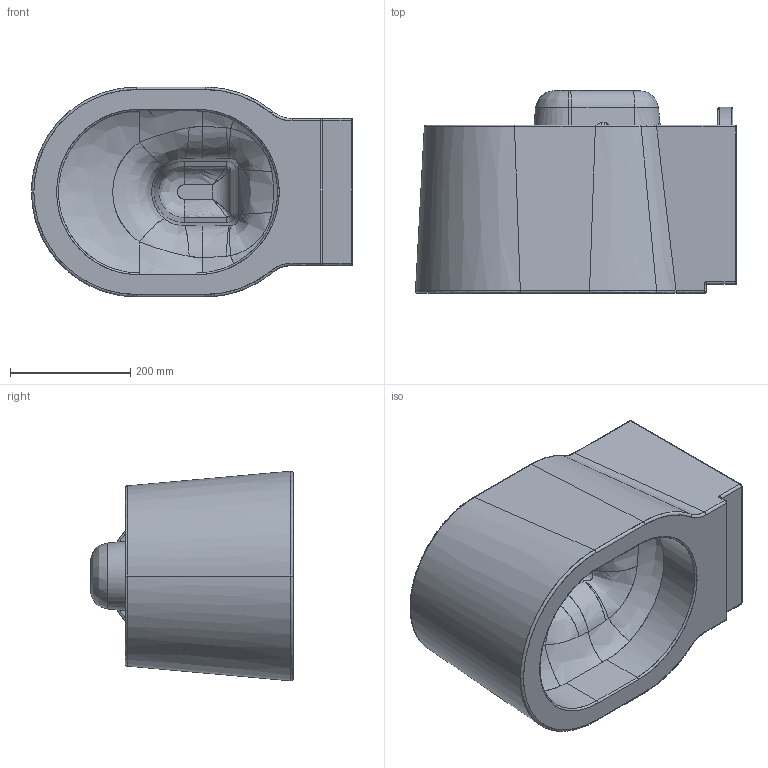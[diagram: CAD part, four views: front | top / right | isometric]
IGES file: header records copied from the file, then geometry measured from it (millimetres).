
Start section: C
Global section: file name: Bucket Hung WC.igs; native system:  By UGS Corp.; preprocessor: XPlus GENERIC/IGES 3.0; author: Author; organization: Title; date: 20140113.101758; units: millimetre
Bounding box: 534.77 x 338 x 349.24 mm (x, y, z)
Surface area: 1297923.7 mm2 (no closed solid volume)
Topology: 0 solids, 0 shells, 413 faces, 2101 edges, 2075 vertices
Faces by surface type: bspline 413
